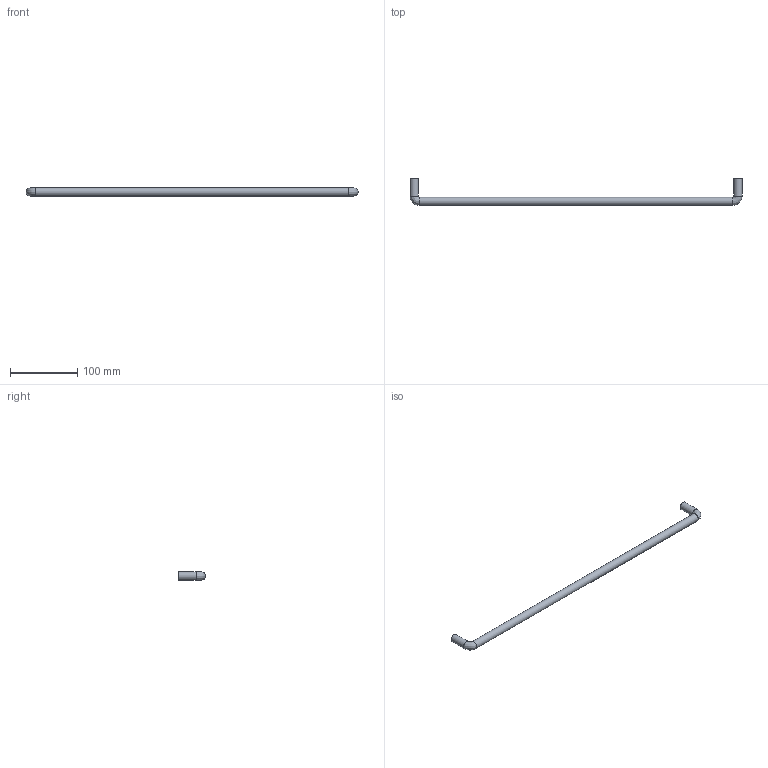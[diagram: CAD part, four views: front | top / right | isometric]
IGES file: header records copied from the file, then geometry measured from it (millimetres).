
Start section: Data from Parasolid IGES Translator 15.0.47, Copyright(c) 2006 Siemens P LM Software. All Rights Reserved.
Global section: file name: 9070120.igs; native system:  By UGS Corp.; preprocessor: XPlus GENERIC/IGES 3.0; author: Noname; organization: Noname; date: 20140122.155458; units: millimetre
Bounding box: 492 x 40 x 12 mm (x, y, z)
Surface area: 20877.7 mm2 (no closed solid volume)
Topology: 0 solids, 0 shells, 11 faces, 42 edges, 38 vertices
Faces by surface type: revolution 7, extrusion 4
